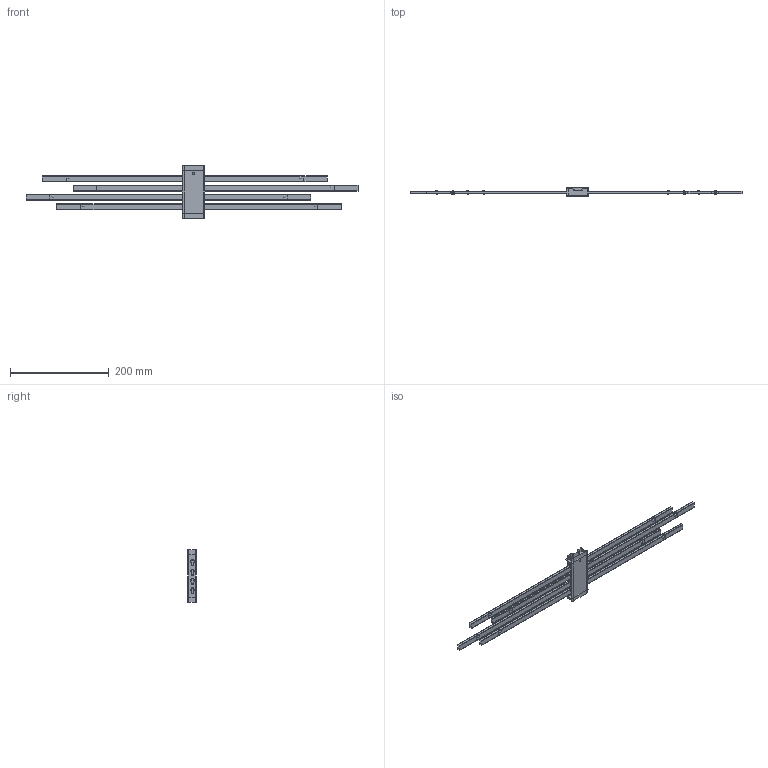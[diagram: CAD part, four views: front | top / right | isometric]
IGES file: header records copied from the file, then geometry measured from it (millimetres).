
Global section: file name: C:\Users\utente\Desktop\3d sito\BILANCIA\BILANCIA.igs; native system: Rhinoceros ( Mar  9 2011 ); preprocessor: Trout Lake IGES 012 Mar  9 2011; date: 170517.151546; units: millimetre
Bounding box: 671.62 x 18 x 105.6 mm (x, y, z)
Surface area: 105252.6 mm2 (no closed solid volume)
Topology: 0 solids, 0 shells, 109 faces, 403 edges, 370 vertices
Faces by surface type: bspline 109
